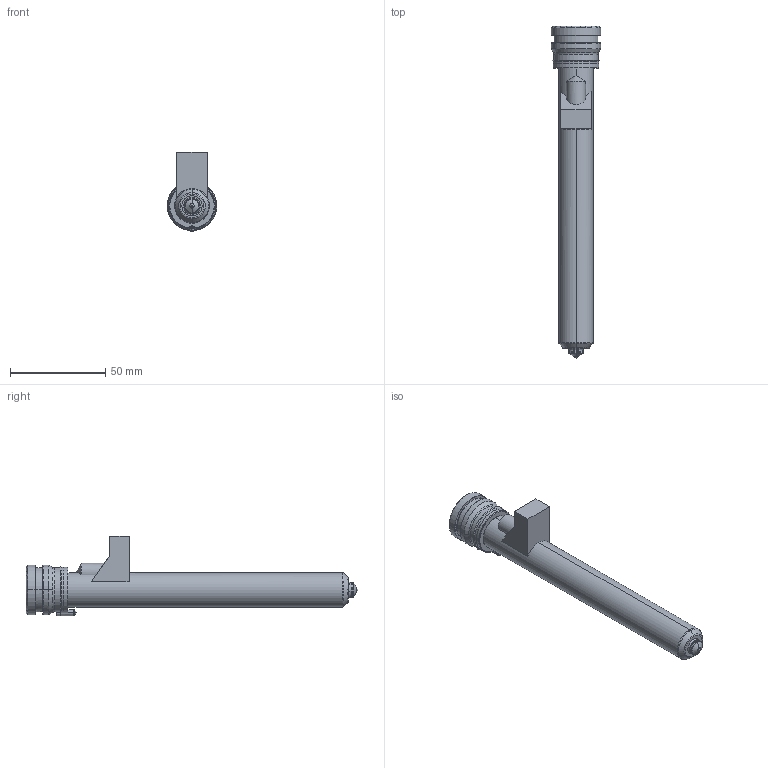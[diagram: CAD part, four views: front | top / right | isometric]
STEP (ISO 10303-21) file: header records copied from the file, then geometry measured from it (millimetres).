
FILE_DESCRIPTION((''),'2;1');
FILE_NAME('MPN-08-24-TS8-156-M','2026-02-05T13:25:04',('UPTIO'),('Thermoplay S.p.A.'),'CREO PARAMETRIC BY PTC INC, 2023494','CREO PARAMETRIC BY PTC INC, 2023494','');
FILE_SCHEMA(('CONFIG_CONTROL_DESIGN','SHAPE_APPEARANCE_LAYERS_GROUPS'));
Length unit declared in the file: millimetre
Products named in the file (1): MPN-08-24-TS8-156-M
Bounding box: 26 x 174 x 41.5 mm (x, y, z)
Volume: 33048.4 mm3; surface area: 43994.5 mm2
Topology: 2 solids, 5 shells, 532 faces, 1371 edges, 843 vertices
Faces by surface type: cylinder 172, plane 146, bspline 77, torus 62, cone 58, sphere 11, extrusion 6
Entity records: 27992 total; most frequent: CARTESIAN_POINT 12353, ORIENTED_EDGE 2720, DIRECTION 2456, EDGE_CURVE 1360, AXIS2_PLACEMENT_3D 960, VERTEX_POINT 843, EDGE_LOOP 561, VECTOR 536
